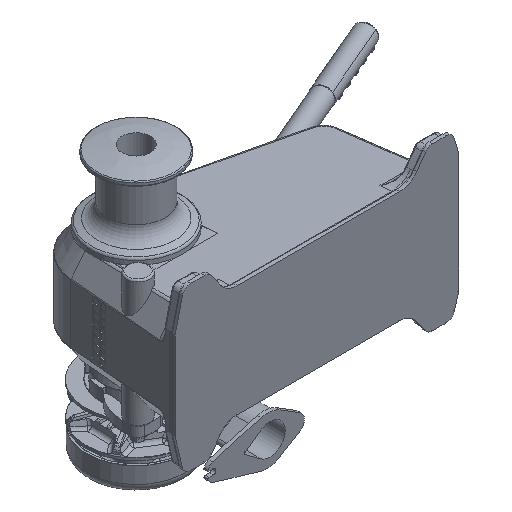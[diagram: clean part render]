
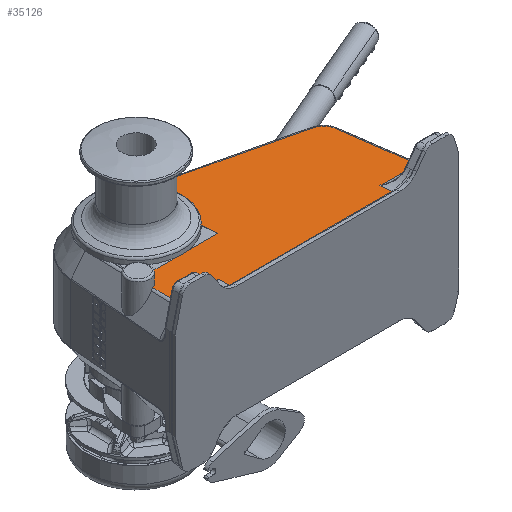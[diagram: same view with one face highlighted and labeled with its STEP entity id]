
A CAD part, isometric view. The second image highlights one B-rep face of the part: STEP entity #35126.
In plain terms, the highlighted planar face has unit normal (0, 0.035, 0.999).
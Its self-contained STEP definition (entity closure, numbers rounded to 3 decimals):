
#1277=ELLIPSE('',#36999,46.028,46.);
#1524=ELLIPSE('',#37470,28.763,1.);
#1580=ELLIPSE('',#37689,28.763,1.);
#1581=ELLIPSE('',#37691,15.009,15.);
#1582=ELLIPSE('',#37693,15.009,15.);
#1972=B_SPLINE_CURVE_WITH_KNOTS('',3,(#55737,#55738,#55739,#55740,#55741,
#55742,#55743),.UNSPECIFIED.,.F.,.F.,(4,1,1,1,4),(0.24,0.592,
0.768,1.121,1.473),.UNSPECIFIED.);
#1973=B_SPLINE_CURVE_WITH_KNOTS('',3,(#55790,#55791,#55792,#55793,#55794,
#55795,#55796,#55797,#55798,#55799),.UNSPECIFIED.,.F.,.F.,(4,1,1,1,1,1,
1,4),(-1.508,-1.258,-1.008,-0.759,
-0.509,-0.259,-0.01,0.24),
 .UNSPECIFIED.);
#4510=FACE_OUTER_BOUND('',#6679,.T.);
#6679=EDGE_LOOP('',(#26842,#26843,#26844,#26845,#26846,#26847,#26848,#26849,
#26850,#26851,#26852,#26853,#26854,#26855,#26856,#26857,#26858,#26859,#26860));
#8377=LINE('',#53226,#10407);
#8380=LINE('',#53236,#10410);
#8716=LINE('',#54558,#10746);
#8735=LINE('',#54659,#10765);
#8823=LINE('',#55653,#10853);
#8824=LINE('',#55659,#10854);
#8826=LINE('',#55706,#10856);
#8827=LINE('',#55747,#10857);
#8828=LINE('',#55810,#10858);
#8835=LINE('',#55883,#10865);
#9157=LINE('',#57266,#11187);
#9159=LINE('',#57459,#11189);
#10407=VECTOR('',#41634,10.);
#10410=VECTOR('',#41645,10.);
#10746=VECTOR('',#42935,10.);
#10765=VECTOR('',#42994,10.);
#10853=VECTOR('',#43418,10.);
#10854=VECTOR('',#43425,10.);
#10856=VECTOR('',#43435,10.);
#10857=VECTOR('',#43442,10.);
#10858=VECTOR('',#43447,10.);
#10865=VECTOR('',#43474,10.);
#11187=VECTOR('',#44718,10.);
#11189=VECTOR('',#44726,10.);
#14051=VERTEX_POINT('',#53222);
#14052=VERTEX_POINT('',#53224);
#14054=VERTEX_POINT('',#53230);
#14055=VERTEX_POINT('',#53234);
#14457=VERTEX_POINT('',#54540);
#14463=VERTEX_POINT('',#54555);
#14464=VERTEX_POINT('',#54557);
#14491=VERTEX_POINT('',#54647);
#14492=VERTEX_POINT('',#54658);
#14605=VERTEX_POINT('',#55649);
#14607=VERTEX_POINT('',#55657);
#14608=VERTEX_POINT('',#55704);
#14609=VERTEX_POINT('',#55735);
#14610=VERTEX_POINT('',#55745);
#14611=VERTEX_POINT('',#55788);
#14612=VERTEX_POINT('',#55801);
#14620=VERTEX_POINT('',#55874);
#14621=VERTEX_POINT('',#55885);
#14623=VERTEX_POINT('',#55896);
#17795=EDGE_CURVE('',#14051,#14052,#8377,.T.);
#17798=EDGE_CURVE('',#14052,#14054,#1277,.T.);
#17800=EDGE_CURVE('',#14054,#14055,#8380,.T.);
#18398=EDGE_CURVE('',#14457,#14055,#1524,.F.);
#18406=EDGE_CURVE('',#14463,#14464,#8716,.T.);
#18440=EDGE_CURVE('',#14491,#14492,#8735,.T.);
#18641=EDGE_CURVE('',#14464,#14605,#8823,.T.);
#18644=EDGE_CURVE('',#14607,#14491,#8824,.T.);
#18649=EDGE_CURVE('',#14608,#14607,#8826,.T.);
#18651=EDGE_CURVE('',#14609,#14608,#1972,.T.);
#18653=EDGE_CURVE('',#14610,#14609,#8827,.T.);
#18655=EDGE_CURVE('',#14611,#14610,#1973,.T.);
#18657=EDGE_CURVE('',#14612,#14611,#8828,.T.);
#18672=EDGE_CURVE('',#14605,#14620,#8835,.T.);
#18675=EDGE_CURVE('',#14051,#14621,#1580,.F.);
#18676=EDGE_CURVE('',#14623,#14620,#1581,.T.);
#18678=EDGE_CURVE('',#14612,#14621,#1582,.T.);
#19251=EDGE_CURVE('',#14623,#14457,#9157,.T.);
#19256=EDGE_CURVE('',#14463,#14492,#9159,.T.);
#26842=ORIENTED_EDGE('',*,*,#19251,.F.);
#26843=ORIENTED_EDGE('',*,*,#18676,.T.);
#26844=ORIENTED_EDGE('',*,*,#18672,.F.);
#26845=ORIENTED_EDGE('',*,*,#18641,.F.);
#26846=ORIENTED_EDGE('',*,*,#18406,.F.);
#26847=ORIENTED_EDGE('',*,*,#19256,.T.);
#26848=ORIENTED_EDGE('',*,*,#18440,.F.);
#26849=ORIENTED_EDGE('',*,*,#18644,.F.);
#26850=ORIENTED_EDGE('',*,*,#18649,.F.);
#26851=ORIENTED_EDGE('',*,*,#18651,.F.);
#26852=ORIENTED_EDGE('',*,*,#18653,.F.);
#26853=ORIENTED_EDGE('',*,*,#18655,.F.);
#26854=ORIENTED_EDGE('',*,*,#18657,.F.);
#26855=ORIENTED_EDGE('',*,*,#18678,.T.);
#26856=ORIENTED_EDGE('',*,*,#18675,.F.);
#26857=ORIENTED_EDGE('',*,*,#17795,.T.);
#26858=ORIENTED_EDGE('',*,*,#17798,.T.);
#26859=ORIENTED_EDGE('',*,*,#17800,.T.);
#26860=ORIENTED_EDGE('',*,*,#18398,.F.);
#34044=PLANE('',#38161);
#35126=ADVANCED_FACE('',(#4510),#34044,.T.);
#36999=AXIS2_PLACEMENT_3D('',#53232,#41640,#41641);
#37470=AXIS2_PLACEMENT_3D('',#54541,#42917,#42918);
#37689=AXIS2_PLACEMENT_3D('',#55894,#43478,#43479);
#37691=AXIS2_PLACEMENT_3D('',#55897,#43482,#43483);
#37693=AXIS2_PLACEMENT_3D('',#55899,#43486,#43487);
#38161=AXIS2_PLACEMENT_3D('',#57498,#44752,#44753);
#41634=DIRECTION('',(0.087,0.996,-0.035));
#41640=DIRECTION('center_axis',(0.,-0.035,-0.999));
#41641=DIRECTION('ref_axis',(0.,-0.999,0.035));
#41645=DIRECTION('',(0.087,-0.996,0.035));
#42917=DIRECTION('center_axis',(0.,-0.035,-0.999));
#42918=DIRECTION('ref_axis',(0.087,-0.996,0.035));
#42935=DIRECTION('',(0.024,0.999,-0.035));
#42994=DIRECTION('',(0.024,-0.999,0.035));
#43418=DIRECTION('',(-1.,0.,0.));
#43425=DIRECTION('',(-1.,0.,0.));
#43435=DIRECTION('',(0.098,-0.995,0.035));
#43442=DIRECTION('',(0.971,-0.238,0.008));
#43447=DIRECTION('',(0.063,0.997,-0.035));
#43474=DIRECTION('',(0.063,0.997,-0.035));
#43478=DIRECTION('center_axis',(0.,-0.035,-0.999));
#43479=DIRECTION('ref_axis',(-0.087,-0.996,0.035));
#43482=DIRECTION('center_axis',(0.,-0.035,-0.999));
#43483=DIRECTION('ref_axis',(0.,-0.999,0.035));
#43486=DIRECTION('center_axis',(0.,-0.035,-0.999));
#43487=DIRECTION('ref_axis',(0.,-0.999,0.035));
#44718=DIRECTION('',(1.,0.,0.));
#44726=DIRECTION('',(1.,0.,0.));
#44752=DIRECTION('center_axis',(0.,0.035,0.999));
#44753=DIRECTION('ref_axis',(1.,0.,0.));
#53222=CARTESIAN_POINT('',(-49.484,100.181,66.502));
#53224=CARTESIAN_POINT('',(-45.825,142.009,65.041));
#53226=CARTESIAN_POINT('',(-50.728,85.965,66.998));
#53230=CARTESIAN_POINT('',(45.825,142.009,65.041));
#53232=CARTESIAN_POINT('Origin',(0.,138.,65.181));
#53234=CARTESIAN_POINT('',(49.484,100.181,66.502));
#53236=CARTESIAN_POINT('',(48.795,108.058,66.227));
#54540=CARTESIAN_POINT('',(50.986,71.544,67.502));
#54541=CARTESIAN_POINT('Origin',(48.481,100.181,66.502));
#54555=CARTESIAN_POINT('',(-2.376,3.,69.895));
#54557=CARTESIAN_POINT('',(-2.016,17.721,69.381));
#54558=CARTESIAN_POINT('',(-1.52,37.999,68.673));
#54647=CARTESIAN_POINT('',(209.016,17.721,69.381));
#54658=CARTESIAN_POINT('',(209.376,3.,69.895));
#54659=CARTESIAN_POINT('',(208.495,39.014,68.638));
#55649=CARTESIAN_POINT('',(-55.05,17.721,69.381));
#55653=CARTESIAN_POINT('',(21.901,17.721,69.381));
#55657=CARTESIAN_POINT('',(257.437,17.721,69.381));
#55659=CARTESIAN_POINT('',(176.645,17.721,69.381));
#55704=CARTESIAN_POINT('',(247.94,114.419,66.004));
#55706=CARTESIAN_POINT('',(249.112,102.488,66.421));
#55735=CARTESIAN_POINT('',(233.814,130.718,65.435));
#55737=CARTESIAN_POINT('Ctrl Pts',(233.814,130.718,65.435));
#55738=CARTESIAN_POINT('Ctrl Pts',(235.941,130.197,65.453));
#55739=CARTESIAN_POINT('Ctrl Pts',(238.99,128.846,65.501));
#55740=CARTESIAN_POINT('Ctrl Pts',(243.263,125.388,65.621));
#55741=CARTESIAN_POINT('Ctrl Pts',(246.522,120.883,65.779));
#55742=CARTESIAN_POINT('Ctrl Pts',(247.726,116.599,65.928));
#55743=CARTESIAN_POINT('Ctrl Pts',(247.94,114.419,66.004));
#55745=CARTESIAN_POINT('',(11.251,185.245,63.531));
#55747=CARTESIAN_POINT('',(63.246,172.507,63.976));
#55788=CARTESIAN_POINT('',(-47.202,142.269,65.032));
#55790=CARTESIAN_POINT('Ctrl Pts',(-47.202,142.269,65.032));
#55791=CARTESIAN_POINT('Ctrl Pts',(-46.955,146.2,64.895));
#55792=CARTESIAN_POINT('Ctrl Pts',(-45.474,153.998,64.622));
#55793=CARTESIAN_POINT('Ctrl Pts',(-40.43,164.783,64.246));
#55794=CARTESIAN_POINT('Ctrl Pts',(-32.879,173.988,63.924));
#55795=CARTESIAN_POINT('Ctrl Pts',(-23.287,181.038,63.678));
#55796=CARTESIAN_POINT('Ctrl Pts',(-12.251,185.501,63.522));
#55797=CARTESIAN_POINT('Ctrl Pts',(-0.455,187.096,
63.466));
#55798=CARTESIAN_POINT('Ctrl Pts',(7.428,186.182,63.498));
#55799=CARTESIAN_POINT('Ctrl Pts',(11.251,185.245,63.531));
#55801=CARTESIAN_POINT('',(-51.21,78.672,67.253));
#55810=CARTESIAN_POINT('',(-53.562,41.333,68.557));
#55874=CARTESIAN_POINT('',(-52.913,51.642,68.197));
#55883=CARTESIAN_POINT('',(-53.562,41.333,68.557));
#55885=CARTESIAN_POINT('',(-51.03,78.57,67.256));
#55894=CARTESIAN_POINT('Origin',(-48.481,100.181,66.502));
#55896=CARTESIAN_POINT('',(-44.744,71.544,67.502));
#55897=CARTESIAN_POINT('Origin',(-58.5,65.563,67.711));
#55899=CARTESIAN_POINT('Origin',(-58.5,65.563,67.711));
#57266=CARTESIAN_POINT('',(47.242,71.544,67.502));
#57459=CARTESIAN_POINT('',(93.198,3.,69.895));
#57498=CARTESIAN_POINT('Origin',(94.484,75.57,67.361));
